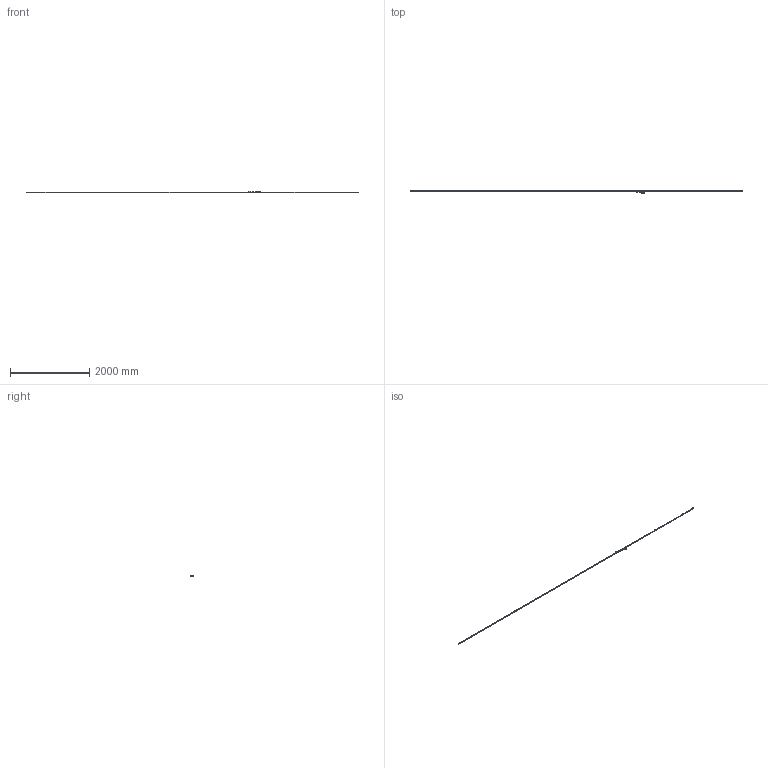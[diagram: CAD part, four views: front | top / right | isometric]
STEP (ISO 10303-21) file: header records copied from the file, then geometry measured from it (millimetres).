
FILE_DESCRIPTION(('Creo Elements/Direct Modeling STEP Export'),'2;1');
FILE_NAME('ST1300-8200D.stp','2018-03-01T15:42:30',(''),(''),'Creo Elements/Direct Modeling STEP processor for AP214 (Solid Model)','Creo Elements/Direct Modeling 18.1B 29-Sep-2012 (C) Parametric Technology GmbH','');
FILE_SCHEMA(('AUTOMOTIVE_DESIGN { 1 0 10303 214 1 1 1 1 }'));
Products named in the file (4): Connector; Detector_Head; Scale_8200; ST1300-8200D
Assembly tree (3 placements, depth 2):
  ST1300-8200D
    Scale_8200
    Detector_Head
    Connector
Bounding box: 8373 x 88.3 x 30.1 mm (x, y, z)
Volume: 712438.4 mm3; surface area: 455231.3 mm2
Topology: 2 solids, 10 shells, 5878 faces, 15794 edges, 10185 vertices
Faces by surface type: plane 2654, cylinder 2156, extrusion 852, cone 131, torus 58, bspline 23, revolution 4
Entity records: 190780 total; most frequent: CARTESIAN_POINT 47856, ORIENTED_EDGE 31564, DIRECTION 25942, EDGE_CURVE 15778, VERTEX_POINT 10185, VECTOR 9442, LINE 8626, AXIS2_PLACEMENT_3D 8247
